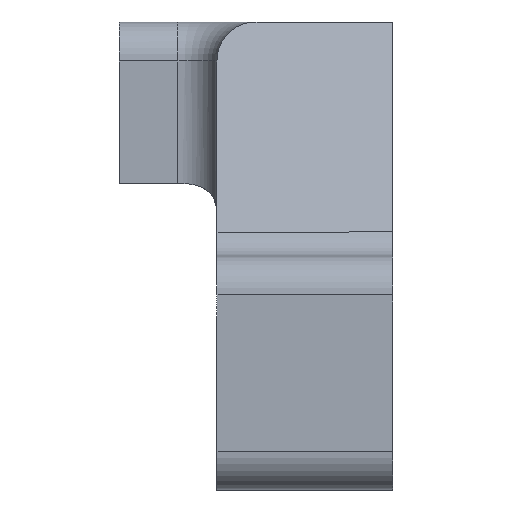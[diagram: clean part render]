
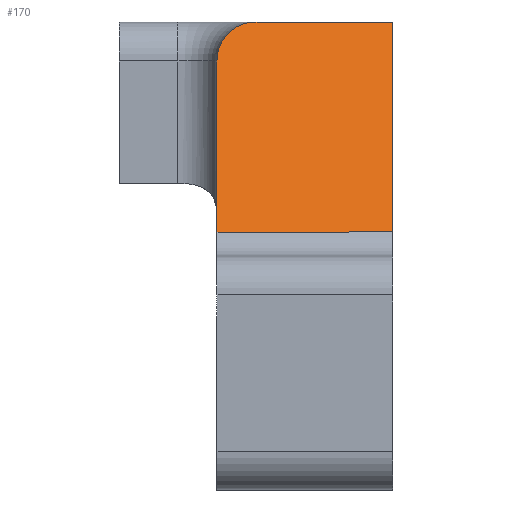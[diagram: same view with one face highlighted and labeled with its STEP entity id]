
A CAD part, left-side view. The second image highlights one B-rep face of the part: STEP entity #170.
In plain terms, the highlighted planar face has unit normal (-0.923, 0, 0.385).
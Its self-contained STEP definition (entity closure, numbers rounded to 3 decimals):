
#113 = CARTESIAN_POINT ( 'NONE',  ( -26., 14., -8. ) ) ;
#170 = ADVANCED_FACE ( 'NONE', ( #1969 ), #1254, .F. ) ;
#228 = CARTESIAN_POINT ( 'NONE',  ( -26., 0., -8. ) ) ;
#258 = CARTESIAN_POINT ( 'NONE',  ( -21., 7., 4. ) ) ;
#292 = EDGE_CURVE ( 'NONE', #1355, #601, #1894, .T. ) ;
#309 = VERTEX_POINT ( 'NONE', #1534 ) ;
#320 = VECTOR ( 'NONE', #723, 1000. ) ;
#381 = DIRECTION ( 'NONE',  ( 0., -1., 0. ) ) ;
#458 = DIRECTION ( 'NONE',  ( -0.385, 0., -0.923 ) ) ;
#601 = VERTEX_POINT ( 'NONE', #864 ) ;
#613 = DIRECTION ( 'NONE',  ( 0., -1., 0. ) ) ;
#721 = EDGE_CURVE ( 'NONE', #309, #1833, #1127, .T. ) ;
#723 = DIRECTION ( 'NONE',  ( -0.385, 0., -0.923 ) ) ;
#729 = EDGE_LOOP ( 'NONE', ( #1047, #2007, #1476, #2018, #1902 ) ) ;
#864 = CARTESIAN_POINT ( 'NONE',  ( -21., 0., 4. ) ) ;
#894 = CARTESIAN_POINT ( 'NONE',  ( -21.833, 9., 2. ) ) ;
#905 = CARTESIAN_POINT ( 'NONE',  ( -21., 8.172, 4. ) ) ;
#957 = VECTOR ( 'NONE', #1453, 1000. ) ;
#969 =( BOUNDED_CURVE ( )  B_SPLINE_CURVE ( 3, ( #258, #905, #1990, #894 ),
 .UNSPECIFIED., .F., .T. ) 
 B_SPLINE_CURVE_WITH_KNOTS ( ( 4, 4 ),
 ( 3.142, 4.712 ),
 .UNSPECIFIED. ) 
 CURVE ( )  GEOMETRIC_REPRESENTATION_ITEM ( )  RATIONAL_B_SPLINE_CURVE ( ( 1., 0.805, 0.805, 1. ) ) 
 REPRESENTATION_ITEM ( '' )  );
#1047 = ORIENTED_EDGE ( 'NONE', *, *, #721, .T. ) ;
#1127 = LINE ( 'NONE', #1138, #320 ) ;
#1138 = CARTESIAN_POINT ( 'NONE',  ( -19.314, 9., 8.047 ) ) ;
#1191 = CARTESIAN_POINT ( 'NONE',  ( -21., 14., 4. ) ) ;
#1195 = EDGE_CURVE ( 'NONE', #1390, #309, #969, .T. ) ;
#1232 = LINE ( 'NONE', #1191, #1357 ) ;
#1254 = PLANE ( 'NONE',  #1283 ) ;
#1283 = AXIS2_PLACEMENT_3D ( 'NONE', #113, #1430, #458 ) ;
#1341 = CARTESIAN_POINT ( 'NONE',  ( -25.487, 0., -6.769 ) ) ;
#1355 = VERTEX_POINT ( 'NONE', #1341 ) ;
#1357 = VECTOR ( 'NONE', #613, 1000. ) ;
#1390 = VERTEX_POINT ( 'NONE', #1722 ) ;
#1430 = DIRECTION ( 'NONE',  ( 0.923, 0., -0.385 ) ) ;
#1453 = DIRECTION ( 'NONE',  ( 0.385, 0., 0.923 ) ) ;
#1476 = ORIENTED_EDGE ( 'NONE', *, *, #292, .T. ) ;
#1534 = CARTESIAN_POINT ( 'NONE',  ( -21.833, 9., 2. ) ) ;
#1722 = CARTESIAN_POINT ( 'NONE',  ( -21., 7., 4. ) ) ;
#1745 = LINE ( 'NONE', #2262, #1869 ) ;
#1777 = EDGE_CURVE ( 'NONE', #1390, #601, #1232, .T. ) ;
#1833 = VERTEX_POINT ( 'NONE', #2252 ) ;
#1869 = VECTOR ( 'NONE', #381, 1000. ) ;
#1894 = LINE ( 'NONE', #228, #957 ) ;
#1902 = ORIENTED_EDGE ( 'NONE', *, *, #1195, .T. ) ;
#1969 = FACE_OUTER_BOUND ( 'NONE', #729, .T. ) ;
#1990 = CARTESIAN_POINT ( 'NONE',  ( -21.345, 9., 3.172 ) ) ;
#2007 = ORIENTED_EDGE ( 'NONE', *, *, #2380, .T. ) ;
#2018 = ORIENTED_EDGE ( 'NONE', *, *, #1777, .F. ) ;
#2252 = CARTESIAN_POINT ( 'NONE',  ( -25.487, 9., -6.769 ) ) ;
#2262 = CARTESIAN_POINT ( 'NONE',  ( -25.487, 0., -6.769 ) ) ;
#2380 = EDGE_CURVE ( 'NONE', #1833, #1355, #1745, .T. ) ;
